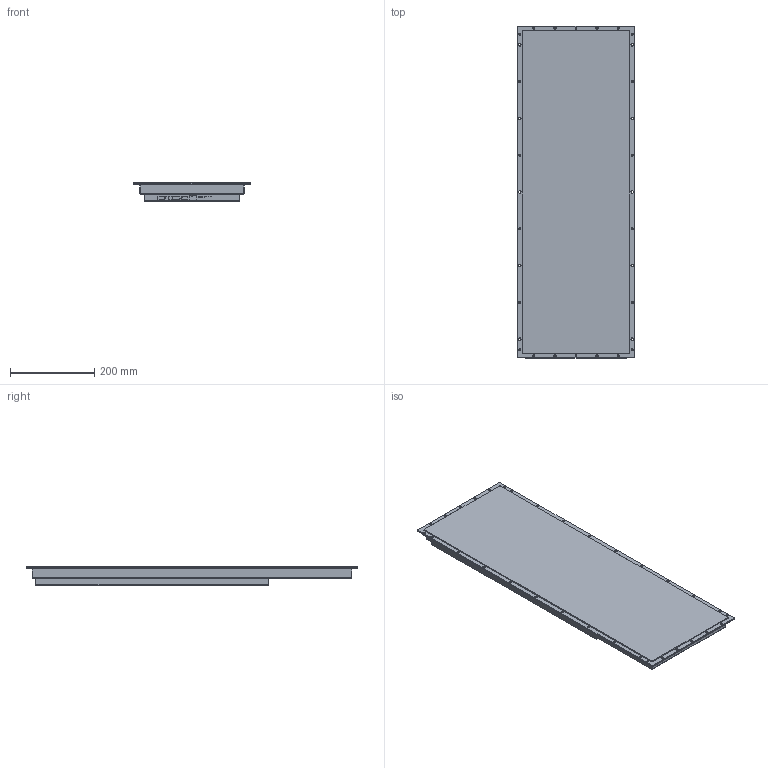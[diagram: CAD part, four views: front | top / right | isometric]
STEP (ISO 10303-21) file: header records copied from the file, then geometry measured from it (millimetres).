
FILE_DESCRIPTION(/* description */ (''),/* implementation_level */ '2;1');
FILE_NAME(/* name */ 'DM29_R1_Vxx_wO_Comp_20260402.step',/* time_stamp */ '2026-04-02T17:04:00+02:00',/* author */ (''),/* organization */ (''),/* preprocessor_version */ 'ST-DEVELOPER v20.1',/* originating_system */ 'Autodesk Translation Framework v14.24.0.0',/* authorisation */ '');
FILE_SCHEMA (('AUTOMOTIVE_DESIGN { 1 0 10303 214 3 1 1 }'));
Length unit declared in the file: millimetre
Products named in the file (8): DM29UT_R1; KVT SO-3.5 M3-5; DM29OT_R1; Plexi_frame; Touch_frame; Touch_glas; DIN EN ISO 7380-1 - M3 x 25 Edelstahl A2-70 Einfach; DIN EN ISO 7380-1 - M3 x 6 Edelstahl A2-70 Einfach
Assembly tree (15 placements, depth 2):
  DM29UT_R1
    KVT SO-3.5 M3-5  x2
    DM29OT_R1
    Plexi_frame
    Touch_frame
    Touch_glas
    DIN EN ISO 7380-1 - M3 x 25 Edelstahl A2-70 Einfach  x6
    DIN EN ISO 7380-1 - M3 x 6 Edelstahl A2-70 Einfach  x3
Bounding box: 277.5 x 789.5 x 46.95 mm (x, y, z)
Volume: 1212208.3 mm3; surface area: 1374654.9 mm2
Topology: 27 solids, 27 shells, 842 faces, 2006 edges, 1262 vertices
Faces by surface type: plane 479, cylinder 292, cone 53, torus 9, sphere 9
Full cylindrical faces by diameter (mm): 1.5 x3, 2.2 x18, 2.459 x13, 2.5 x36, 2.927 x9, 3.5 x6, 3.6 x10, 3.8 x2, 4.995 x13, 5.39 x13, 5.42 x13, 6 x42
Entity records: 21731 total; most frequent: DIRECTION 3802, CARTESIAN_POINT 3562, ORIENTED_EDGE 3472, EDGE_CURVE 1736, AXIS2_PLACEMENT_3D 1348, VERTEX_POINT 1108, LINE 1106, VECTOR 1106
